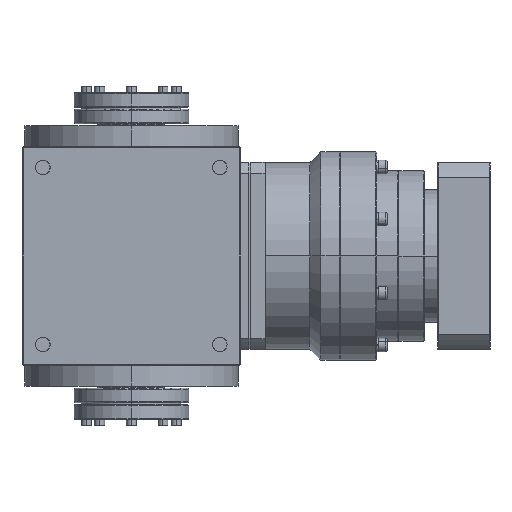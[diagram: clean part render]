
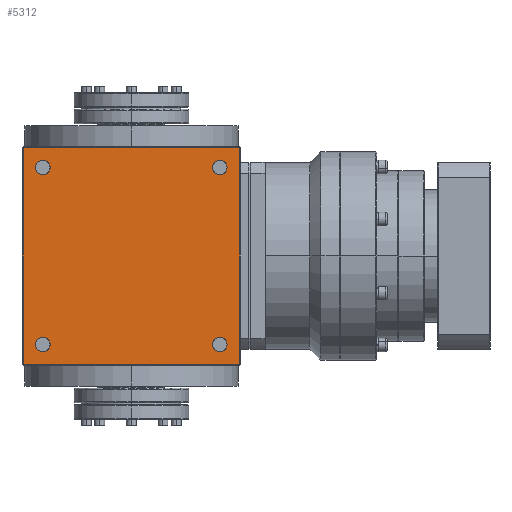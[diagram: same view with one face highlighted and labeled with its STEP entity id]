
A CAD part, left-side view. The second image highlights one B-rep face of the part: STEP entity #5312.
In plain terms, the highlighted planar face has unit normal (-1, 0, 0).
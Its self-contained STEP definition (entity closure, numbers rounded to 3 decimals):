
#268 = CARTESIAN_POINT ( 'NONE',  ( -105., 104., -104. ) ) ;
#1061 = VERTEX_POINT ( 'NONE', #36950 ) ;
#1145 = PLANE ( 'NONE',  #7965 ) ;
#2039 = EDGE_CURVE ( 'NONE', #26501, #40626, #20730, .T. ) ;
#2755 = CIRCLE ( 'NONE', #45487, 7. ) ;
#2876 = LINE ( 'NONE', #38930, #27218 ) ;
#3146 = AXIS2_PLACEMENT_3D ( 'NONE', #15836, #38267, #27041 ) ;
#3202 = CARTESIAN_POINT ( 'NONE',  ( -105., 85., -78. ) ) ;
#3645 = ORIENTED_EDGE ( 'NONE', *, *, #46088, .T. ) ;
#4482 = DIRECTION ( 'NONE',  ( 0., -1., 0. ) ) ;
#5312 = ADVANCED_FACE ( 'NONE', ( #41032, #7614, #22176, #15251, #12126 ), #1145, .T. ) ;
#5978 = EDGE_CURVE ( 'NONE', #40626, #26501, #26292, .T. ) ;
#6236 = EDGE_LOOP ( 'NONE', ( #3645, #12384 ) ) ;
#6565 = DIRECTION ( 'NONE',  ( 1., 0., 0. ) ) ;
#6626 = DIRECTION ( 'NONE',  ( 1., 0., 0. ) ) ;
#6761 = VERTEX_POINT ( 'NONE', #17198 ) ;
#6783 = AXIS2_PLACEMENT_3D ( 'NONE', #26279, #43510, #18661 ) ;
#7221 = CARTESIAN_POINT ( 'NONE',  ( -105., 85., -85. ) ) ;
#7348 = CARTESIAN_POINT ( 'NONE',  ( -105., 85., 92. ) ) ;
#7396 = EDGE_CURVE ( 'NONE', #15977, #6761, #35920, .T. ) ;
#7571 = EDGE_CURVE ( 'NONE', #19373, #36522, #46616, .T. ) ;
#7614 = FACE_BOUND ( 'NONE', #10164, .T. ) ;
#7965 = AXIS2_PLACEMENT_3D ( 'NONE', #14783, #37199, #4482 ) ;
#10164 = EDGE_LOOP ( 'NONE', ( #36750, #18344 ) ) ;
#10721 = VECTOR ( 'NONE', #45812, 1000. ) ;
#10839 = DIRECTION ( 'NONE',  ( 0., 0., 1. ) ) ;
#10931 = ORIENTED_EDGE ( 'NONE', *, *, #5978, .T. ) ;
#12126 = FACE_BOUND ( 'NONE', #44014, .T. ) ;
#12384 = ORIENTED_EDGE ( 'NONE', *, *, #33222, .T. ) ;
#12499 = VERTEX_POINT ( 'NONE', #14131 ) ;
#12577 = ORIENTED_EDGE ( 'NONE', *, *, #7396, .T. ) ;
#14131 = CARTESIAN_POINT ( 'NONE',  ( -105., -85., -78. ) ) ;
#14783 = CARTESIAN_POINT ( 'NONE',  ( -105., 105., -105. ) ) ;
#15251 = FACE_BOUND ( 'NONE', #6236, .T. ) ;
#15546 = EDGE_CURVE ( 'NONE', #1061, #36292, #31219, .T. ) ;
#15836 = CARTESIAN_POINT ( 'NONE',  ( -105., 85., -85. ) ) ;
#15977 = VERTEX_POINT ( 'NONE', #3202 ) ;
#16089 = CARTESIAN_POINT ( 'NONE',  ( -105., -85., -92. ) ) ;
#16957 = CARTESIAN_POINT ( 'NONE',  ( -105., 85., 85. ) ) ;
#17198 = CARTESIAN_POINT ( 'NONE',  ( -105., 85., -92. ) ) ;
#17294 = LINE ( 'NONE', #28248, #43934 ) ;
#17451 = DIRECTION ( 'NONE',  ( 0., 0., -1. ) ) ;
#17842 = DIRECTION ( 'NONE',  ( 0., 0., 1. ) ) ;
#17908 = DIRECTION ( 'NONE',  ( 0., 1., 0. ) ) ;
#17974 = CIRCLE ( 'NONE', #20258, 7. ) ;
#18344 = ORIENTED_EDGE ( 'NONE', *, *, #7571, .T. ) ;
#18661 = DIRECTION ( 'NONE',  ( 0., 0., 1. ) ) ;
#19373 = VERTEX_POINT ( 'NONE', #40201 ) ;
#19590 = VERTEX_POINT ( 'NONE', #22505 ) ;
#20242 = CARTESIAN_POINT ( 'NONE',  ( -105., 105., -104. ) ) ;
#20258 = AXIS2_PLACEMENT_3D ( 'NONE', #7221, #44233, #21787 ) ;
#20730 = CIRCLE ( 'NONE', #32927, 7. ) ;
#21269 = ORIENTED_EDGE ( 'NONE', *, *, #2039, .T. ) ;
#21481 = LINE ( 'NONE', #36027, #39193 ) ;
#21787 = DIRECTION ( 'NONE',  ( 0., 0., 1. ) ) ;
#22176 = FACE_BOUND ( 'NONE', #23020, .T. ) ;
#22505 = CARTESIAN_POINT ( 'NONE',  ( -105., -104., 104. ) ) ;
#22625 = EDGE_LOOP ( 'NONE', ( #23682, #34721, #40170, #30496 ) ) ;
#23020 = EDGE_LOOP ( 'NONE', ( #12577, #29985 ) ) ;
#23215 = EDGE_CURVE ( 'NONE', #36522, #19373, #27375, .T. ) ;
#23240 = AXIS2_PLACEMENT_3D ( 'NONE', #28282, #6565, #10839 ) ;
#23318 = DIRECTION ( 'NONE',  ( 0., 0., 1. ) ) ;
#23682 = ORIENTED_EDGE ( 'NONE', *, *, #28180, .T. ) ;
#24217 = DIRECTION ( 'NONE',  ( 0., 0., 1. ) ) ;
#26008 = AXIS2_PLACEMENT_3D ( 'NONE', #45925, #39444, #27986 ) ;
#26279 = CARTESIAN_POINT ( 'NONE',  ( -105., -85., 85. ) ) ;
#26292 = CIRCLE ( 'NONE', #23240, 7. ) ;
#26501 = VERTEX_POINT ( 'NONE', #7348 ) ;
#27041 = DIRECTION ( 'NONE',  ( 0., 0., 1. ) ) ;
#27218 = VECTOR ( 'NONE', #17451, 1000. ) ;
#27375 = CIRCLE ( 'NONE', #6783, 7. ) ;
#27802 = CIRCLE ( 'NONE', #40772, 7. ) ;
#27986 = DIRECTION ( 'NONE',  ( 0., 0., 1. ) ) ;
#28180 = EDGE_CURVE ( 'NONE', #1061, #19590, #17294, .T. ) ;
#28248 = CARTESIAN_POINT ( 'NONE',  ( -105., -104., -105. ) ) ;
#28282 = CARTESIAN_POINT ( 'NONE',  ( -105., 85., 85. ) ) ;
#29985 = ORIENTED_EDGE ( 'NONE', *, *, #46843, .T. ) ;
#30403 = VERTEX_POINT ( 'NONE', #16089 ) ;
#30496 = ORIENTED_EDGE ( 'NONE', *, *, #15546, .F. ) ;
#31219 = LINE ( 'NONE', #20242, #10721 ) ;
#31757 = CARTESIAN_POINT ( 'NONE',  ( -105., 85., 78. ) ) ;
#32927 = AXIS2_PLACEMENT_3D ( 'NONE', #16957, #46093, #46326 ) ;
#33105 = DIRECTION ( 'NONE',  ( 1., 0., 0. ) ) ;
#33222 = EDGE_CURVE ( 'NONE', #30403, #12499, #2755, .T. ) ;
#33946 = EDGE_CURVE ( 'NONE', #41229, #36292, #2876, .T. ) ;
#34721 = ORIENTED_EDGE ( 'NONE', *, *, #45549, .T. ) ;
#34962 = CARTESIAN_POINT ( 'NONE',  ( -105., -85., 92. ) ) ;
#35920 = CIRCLE ( 'NONE', #3146, 7. ) ;
#36027 = CARTESIAN_POINT ( 'NONE',  ( -105., 0., 104. ) ) ;
#36292 = VERTEX_POINT ( 'NONE', #268 ) ;
#36450 = CARTESIAN_POINT ( 'NONE',  ( -105., -85., -85. ) ) ;
#36522 = VERTEX_POINT ( 'NONE', #34962 ) ;
#36750 = ORIENTED_EDGE ( 'NONE', *, *, #23215, .T. ) ;
#36921 = CARTESIAN_POINT ( 'NONE',  ( -105., -85., -85. ) ) ;
#36950 = CARTESIAN_POINT ( 'NONE',  ( -105., -104., -104. ) ) ;
#37199 = DIRECTION ( 'NONE',  ( -1., 0., 0. ) ) ;
#38267 = DIRECTION ( 'NONE',  ( 1., 0., 0. ) ) ;
#38930 = CARTESIAN_POINT ( 'NONE',  ( -105., 104., -105. ) ) ;
#39193 = VECTOR ( 'NONE', #17908, 1000. ) ;
#39444 = DIRECTION ( 'NONE',  ( 1., 0., 0. ) ) ;
#40170 = ORIENTED_EDGE ( 'NONE', *, *, #33946, .T. ) ;
#40201 = CARTESIAN_POINT ( 'NONE',  ( -105., -85., 78. ) ) ;
#40626 = VERTEX_POINT ( 'NONE', #31757 ) ;
#40772 = AXIS2_PLACEMENT_3D ( 'NONE', #36921, #33105, #23318 ) ;
#41032 = FACE_OUTER_BOUND ( 'NONE', #22625, .T. ) ;
#41229 = VERTEX_POINT ( 'NONE', #46740 ) ;
#43510 = DIRECTION ( 'NONE',  ( 1., 0., 0. ) ) ;
#43934 = VECTOR ( 'NONE', #24217, 1000. ) ;
#44014 = EDGE_LOOP ( 'NONE', ( #21269, #10931 ) ) ;
#44233 = DIRECTION ( 'NONE',  ( 1., 0., 0. ) ) ;
#45487 = AXIS2_PLACEMENT_3D ( 'NONE', #36450, #6626, #17842 ) ;
#45549 = EDGE_CURVE ( 'NONE', #19590, #41229, #21481, .T. ) ;
#45812 = DIRECTION ( 'NONE',  ( 0., 1., 0. ) ) ;
#45925 = CARTESIAN_POINT ( 'NONE',  ( -105., -85., 85. ) ) ;
#46088 = EDGE_CURVE ( 'NONE', #12499, #30403, #27802, .T. ) ;
#46093 = DIRECTION ( 'NONE',  ( 1., 0., 0. ) ) ;
#46326 = DIRECTION ( 'NONE',  ( 0., 0., 1. ) ) ;
#46616 = CIRCLE ( 'NONE', #26008, 7. ) ;
#46740 = CARTESIAN_POINT ( 'NONE',  ( -105., 104., 104. ) ) ;
#46843 = EDGE_CURVE ( 'NONE', #6761, #15977, #17974, .T. ) ;
